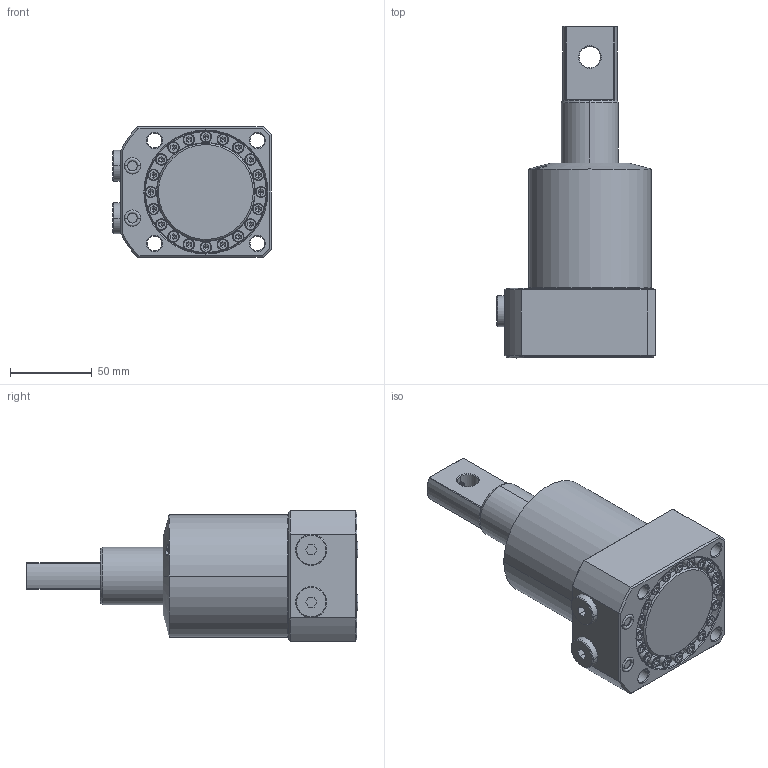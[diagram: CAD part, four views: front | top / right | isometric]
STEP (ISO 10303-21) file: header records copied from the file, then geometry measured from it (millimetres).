
FILE_DESCRIPTION((''),'2;1');
FILE_NAME('SIMP_GENERIC_SWING_CYD_75_PIN_ASM','2023-04-16T16:00:48',('Design 2'),(''),'CREO PARAMETRIC BY PTC INC, 2020053','CREO PARAMETRIC BY PTC INC, 2020053','');
FILE_SCHEMA(('CONFIG_CONTROL_DESIGN'));
Length unit declared in the file: millimetre
Products named in the file (13): BODY___; BODY_TOP_FLG____ASM; PIN_PISTON__SDFG; PISTON_ASM____ASM; SWINGER_ARM___; SWINGER_ARM_ASM____ASM; 1_______; 2_______; HALDER___SEALING_PLLUG_ASM; G-1-4_CLOSE_PLUG__; STATIC-O-RING-10X2SS__; ISHCS04X12__; SIMP_GENERIC_SWING_CYD_75_PIN_ASM
Assembly tree (33 placements, depth 3):
  SIMP_GENERIC_SWING_CYD_75_PIN_ASM
    BODY_TOP_FLG____ASM
      BODY___
    PISTON_ASM____ASM
      PIN_PISTON__SDFG
    SWINGER_ARM_ASM____ASM
      SWINGER_ARM___
    HALDER___SEALING_PLLUG_ASM
      1_______
      2_______
    G-1-4_CLOSE_PLUG__  x2
    STATIC-O-RING-10X2SS__  x2
    ISHCS04X12__  x20
Bounding box: 97 x 203.25 x 80 mm (x, y, z)
Volume: 644681.6 mm3; surface area: 106439.7 mm2
Topology: 29 solids, 29 shells, 1144 faces, 2469 edges, 1407 vertices
Faces by surface type: plane 386, cylinder 358, cone 324, torus 54, bspline 19, sphere 3
Entity records: 17461 total; most frequent: CARTESIAN_POINT 5645, DIRECTION 2591, ORIENTED_EDGE 2238, EDGE_CURVE 1119, AXIS2_PLACEMENT_3D 1038, VERTEX_POINT 655, EDGE_LOOP 598, VECTOR 515
